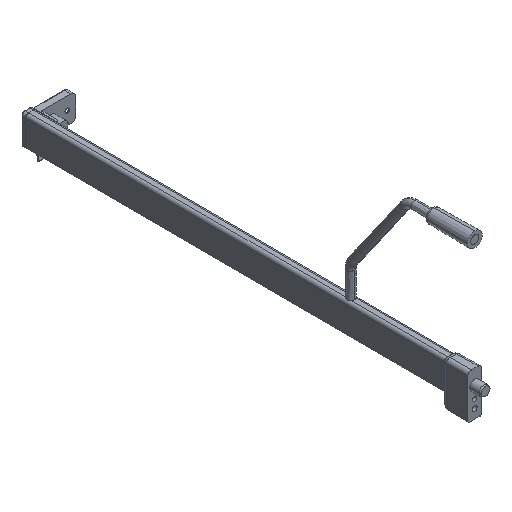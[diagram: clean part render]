
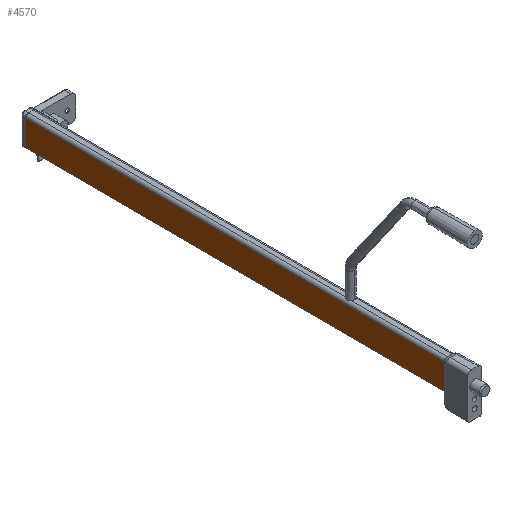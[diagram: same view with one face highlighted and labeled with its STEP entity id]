
A CAD part, isometric view. The second image highlights one B-rep face of the part: STEP entity #4570.
In plain terms, the highlighted planar face has unit normal (-1, 0, 0).
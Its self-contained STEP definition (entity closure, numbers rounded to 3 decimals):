
#594 = CARTESIAN_POINT ( 'NONE',  ( -5.25, 450.4, 12.2 ) ) ;
#603 = CARTESIAN_POINT ( 'NONE',  ( -5.25, 450.4, -13.8 ) ) ;
#604 = CARTESIAN_POINT ( 'NONE',  ( -5.25, 25., -15.5 ) ) ;
#657 = CARTESIAN_POINT ( 'NONE',  ( -5.25, 25., 10.5 ) ) ;
#709 = EDGE_LOOP ( 'NONE', ( #2007, #2008, #2009, #2010 ) ) ;
#798 = LINE ( 'NONE', #1019, #800 ) ;
#800 = VECTOR ( 'NONE', #1020, 1000. ) ;
#801 = LINE ( 'NONE', #1022, #802 ) ;
#802 = VECTOR ( 'NONE', #1023, 1000. ) ;
#805 = LINE ( 'NONE', #1788, #806 ) ;
#806 = VECTOR ( 'NONE', #1789, 1000. ) ;
#829 = LINE ( 'NONE', #1818, #831 ) ;
#831 = VECTOR ( 'NONE', #1819, 1000. ) ;
#1019 = CARTESIAN_POINT ( 'NONE',  ( -5.25, 25., 15. ) ) ;
#1020 = DIRECTION ( 'NONE',  ( 0., 0., -1. ) ) ;
#1022 = CARTESIAN_POINT ( 'NONE',  ( -5.25, 450.4, -13.665 ) ) ;
#1023 = DIRECTION ( 'NONE',  ( 0., 0., -1. ) ) ;
#1459 = FACE_OUTER_BOUND ( 'NONE', #709, .T. ) ;
#1788 = CARTESIAN_POINT ( 'NONE',  ( -5.25, 484.136, 12.335 ) ) ;
#1789 = DIRECTION ( 'NONE',  ( 0., -1., -0.004 ) ) ;
#1818 = CARTESIAN_POINT ( 'NONE',  ( -5.25, 484.24, -13.665 ) ) ;
#1819 = DIRECTION ( 'NONE',  ( 0., -1., -0.004 ) ) ;
#1843 = VERTEX_POINT ( 'NONE', #657 ) ;
#1872 = VERTEX_POINT ( 'NONE', #594 ) ;
#1881 = VERTEX_POINT ( 'NONE', #603 ) ;
#1882 = VERTEX_POINT ( 'NONE', #604 ) ;
#2007 = ORIENTED_EDGE ( 'NONE', *, *, #2156, .T. ) ;
#2008 = ORIENTED_EDGE ( 'NONE', *, *, #2171, .T. ) ;
#2009 = ORIENTED_EDGE ( 'NONE', *, *, #2155, .F. ) ;
#2010 = ORIENTED_EDGE ( 'NONE', *, *, #2159, .F. ) ;
#2155 = EDGE_CURVE ( 'NONE', #1843, #1882, #798, .T. ) ;
#2156 = EDGE_CURVE ( 'NONE', #1872, #1881, #801, .T. ) ;
#2159 = EDGE_CURVE ( 'NONE', #1872, #1843, #805, .T. ) ;
#2171 = EDGE_CURVE ( 'NONE', #1881, #1882, #829, .T. ) ;
#2506 = AXIS2_PLACEMENT_3D ( 'NONE', #3513, #3514, #3515 ) ;
#3512 = PLANE ( 'NONE',  #2506 ) ;
#3513 = CARTESIAN_POINT ( 'NONE',  ( -5.25, 484.24, -13.665 ) ) ;
#3514 = DIRECTION ( 'NONE',  ( 1., 0., 0. ) ) ;
#3515 = DIRECTION ( 'NONE',  ( 0., 0., -1. ) ) ;
#4570 = ADVANCED_FACE ( 'NONE', ( #1459 ), #3512, .F. ) ;
